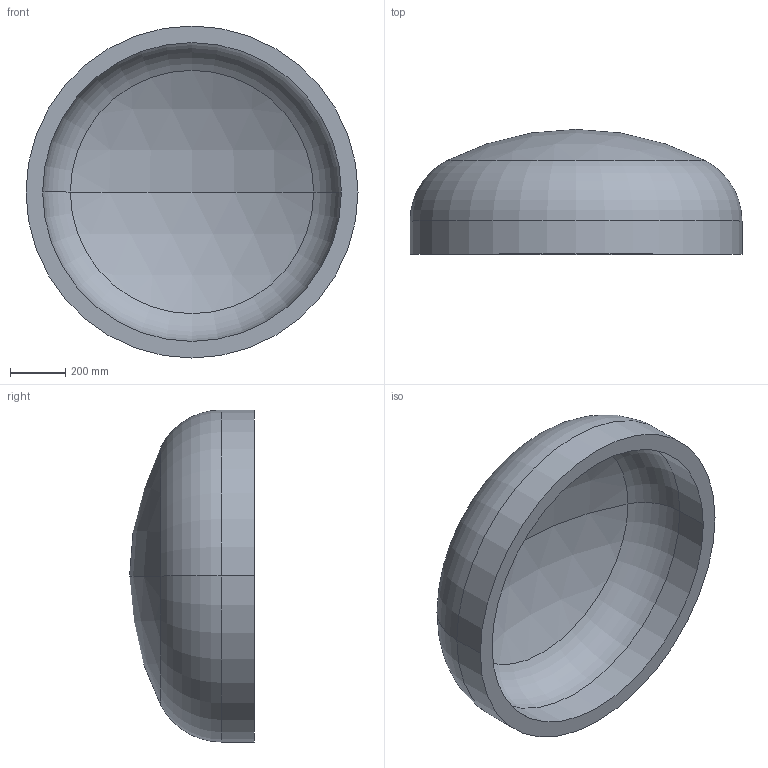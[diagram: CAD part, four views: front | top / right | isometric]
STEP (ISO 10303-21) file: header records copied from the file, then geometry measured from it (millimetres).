
FILE_DESCRIPTION (( 'STEP AP203' ), '1' );
FILE_NAME ('DIN 28013 Korbbogenform_-_Boden DIN 28013 - 1200 x 120 - I - s=60.step', '2016-07-01T09:32:21', ( '' ), ( '' ), 'SwSTEP 2.0', 'SolidWorks 2013', '' );
FILE_SCHEMA (( 'CONFIG_CONTROL_DESIGN' ));
Length unit declared in the file: millimetre
Products named in the file (1): DIN 28013 Korbbogenform_-_Boden DIN 28013 - 1200 x 120 - I - s=60
Bounding box: 1200 x 451.09 x 1200 mm (x, y, z)
Volume: 113939931.3 mm3; surface area: 4020421.6 mm2
Topology: 1 solids, 1 shells, 13 faces, 24 edges, 14 vertices
Faces by surface type: torus 4, cylinder 4, sphere 4, plane 1
Entity records: 407 total; most frequent: DIRECTION 72, CARTESIAN_POINT 52, ORIENTED_EDGE 48, AXIS2_PLACEMENT_3D 34, EDGE_CURVE 24, CIRCLE 20, EDGE_LOOP 14, VERTEX_POINT 14
